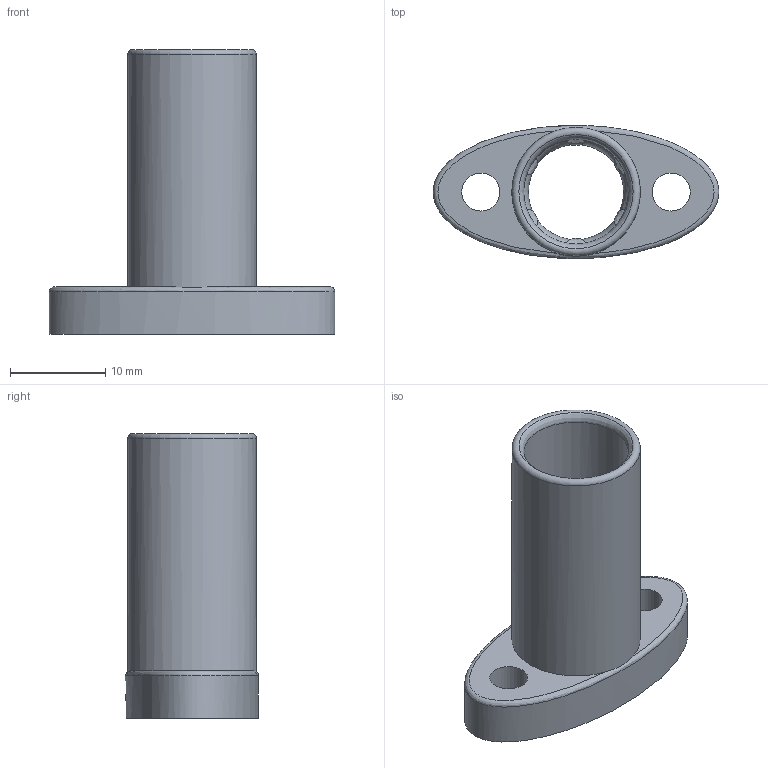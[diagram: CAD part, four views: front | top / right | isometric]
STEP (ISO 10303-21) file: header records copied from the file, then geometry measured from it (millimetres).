
FILE_DESCRIPTION(/* description */ (''),/* implementation_level */ '2;1');
FILE_NAME(/* name */ 'Ejection Charge Holder 2ml long Inverted.stp',/* time_stamp */ '2026-05-10T01:12:24+02:00',/* author */ ('charl'),/* organization */ (''),/* preprocessor_version */ 'ST-DEVELOPER v20.1',/* originating_system */ 'Autodesk Inventor 2027',/* authorisation */ '');
FILE_SCHEMA (('AUTOMOTIVE_DESIGN { 1 0 10303 214 3 1 1 }'));
Length unit declared in the file: millimetre
Products named in the file (1): Ejection Charge Holder 2ml long Inverted
Bounding box: 30 x 13.98 x 29.93 mm (x, y, z)
Volume: 2380.8 mm3; surface area: 2998.3 mm2
Topology: 1 solids, 1 shells, 78 faces, 200 edges, 122 vertices
Faces by surface type: cylinder 31, bspline 25, plane 18, torus 4
Full cylindrical faces by diameter (mm): 4 x2, 10 x1, 11 x1, 13.5 x1
Entity records: 3159 total; most frequent: CARTESIAN_POINT 1326, ORIENTED_EDGE 400, DIRECTION 352, EDGE_CURVE 200, AXIS2_PLACEMENT_3D 147, VERTEX_POINT 122, CIRCLE 87, EDGE_LOOP 82
